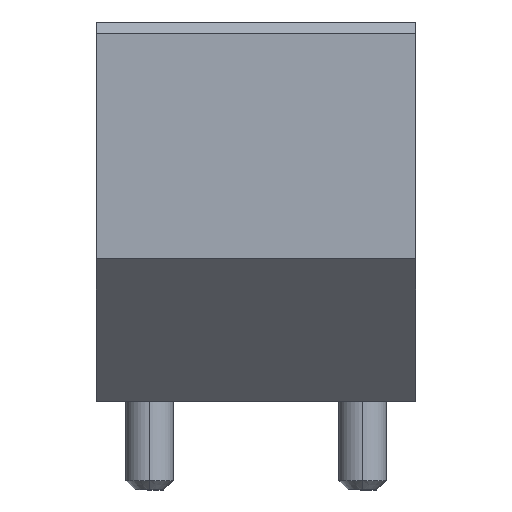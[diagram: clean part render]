
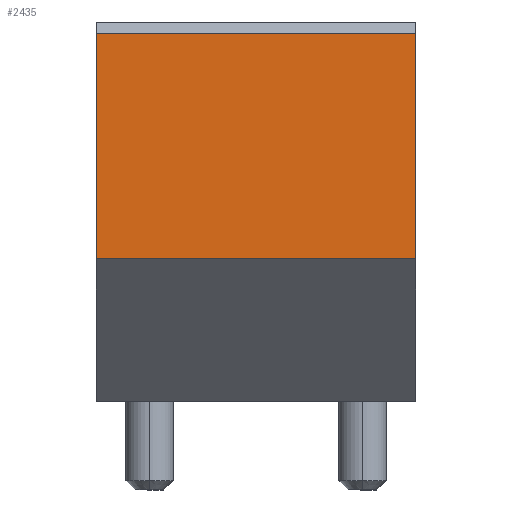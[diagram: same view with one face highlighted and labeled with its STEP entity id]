
A CAD part, left-side view. The second image highlights one B-rep face of the part: STEP entity #2435.
In plain terms, the highlighted planar face has unit normal (-1, 0, 0).
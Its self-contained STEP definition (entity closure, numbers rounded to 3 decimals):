
#249 = CARTESIAN_POINT ( 'NONE',  ( -30.369, 14.038, 117. ) ) ;
#637 = EDGE_CURVE ( 'NONE', #4432, #5005, #6730, .T. ) ;
#742 = CARTESIAN_POINT ( 'NONE',  ( -30.369, -12.962, 85. ) ) ;
#810 = DIRECTION ( 'NONE',  ( 0., 0., 1. ) ) ;
#991 = EDGE_LOOP ( 'NONE', ( #3679, #1234, #2200, #5203 ) ) ;
#1067 = DIRECTION ( 'NONE',  ( 0., 1., 0. ) ) ;
#1234 = ORIENTED_EDGE ( 'NONE', *, *, #6097, .T. ) ;
#1888 = LINE ( 'NONE', #742, #6954 ) ;
#2200 = ORIENTED_EDGE ( 'NONE', *, *, #6676, .F. ) ;
#2253 = DIRECTION ( 'NONE',  ( -1., 0., 0. ) ) ;
#2261 = CARTESIAN_POINT ( 'NONE',  ( -30.369, 14.038, 85. ) ) ;
#2319 = DIRECTION ( 'NONE',  ( 0., -1., 0. ) ) ;
#2345 = PLANE ( 'NONE',  #6887 ) ;
#2435 = ADVANCED_FACE ( 'NONE', ( #7170 ), #2345, .T. ) ;
#3083 = VECTOR ( 'NONE', #1067, 1000. ) ;
#3679 = ORIENTED_EDGE ( 'NONE', *, *, #7423, .T. ) ;
#3762 = VERTEX_POINT ( 'NONE', #6107 ) ;
#3891 = CARTESIAN_POINT ( 'NONE',  ( -30.369, 14.038, 117. ) ) ;
#4124 = VERTEX_POINT ( 'NONE', #249 ) ;
#4429 = CARTESIAN_POINT ( 'NONE',  ( -30.369, -12.962, 98. ) ) ;
#4432 = VERTEX_POINT ( 'NONE', #4748 ) ;
#4748 = CARTESIAN_POINT ( 'NONE',  ( -30.369, 14.038, 98. ) ) ;
#5005 = VERTEX_POINT ( 'NONE', #4429 ) ;
#5145 = LINE ( 'NONE', #6532, #7979 ) ;
#5203 = ORIENTED_EDGE ( 'NONE', *, *, #637, .T. ) ;
#5762 = LINE ( 'NONE', #3891, #3083 ) ;
#6097 = EDGE_CURVE ( 'NONE', #3762, #4124, #5762, .T. ) ;
#6107 = CARTESIAN_POINT ( 'NONE',  ( -30.369, -12.962, 117. ) ) ;
#6532 = CARTESIAN_POINT ( 'NONE',  ( -30.369, 14.038, 85. ) ) ;
#6676 = EDGE_CURVE ( 'NONE', #4432, #4124, #5145, .T. ) ;
#6730 = LINE ( 'NONE', #7410, #6739 ) ;
#6739 = VECTOR ( 'NONE', #7426, 1000. ) ;
#6887 = AXIS2_PLACEMENT_3D ( 'NONE', #2261, #2253, #2319 ) ;
#6954 = VECTOR ( 'NONE', #6972, 1000. ) ;
#6972 = DIRECTION ( 'NONE',  ( 0., 0., 1. ) ) ;
#7170 = FACE_OUTER_BOUND ( 'NONE', #991, .T. ) ;
#7410 = CARTESIAN_POINT ( 'NONE',  ( -30.369, 14.038, 98. ) ) ;
#7423 = EDGE_CURVE ( 'NONE', #5005, #3762, #1888, .T. ) ;
#7426 = DIRECTION ( 'NONE',  ( 0., -1., 0. ) ) ;
#7979 = VECTOR ( 'NONE', #810, 1000. ) ;
